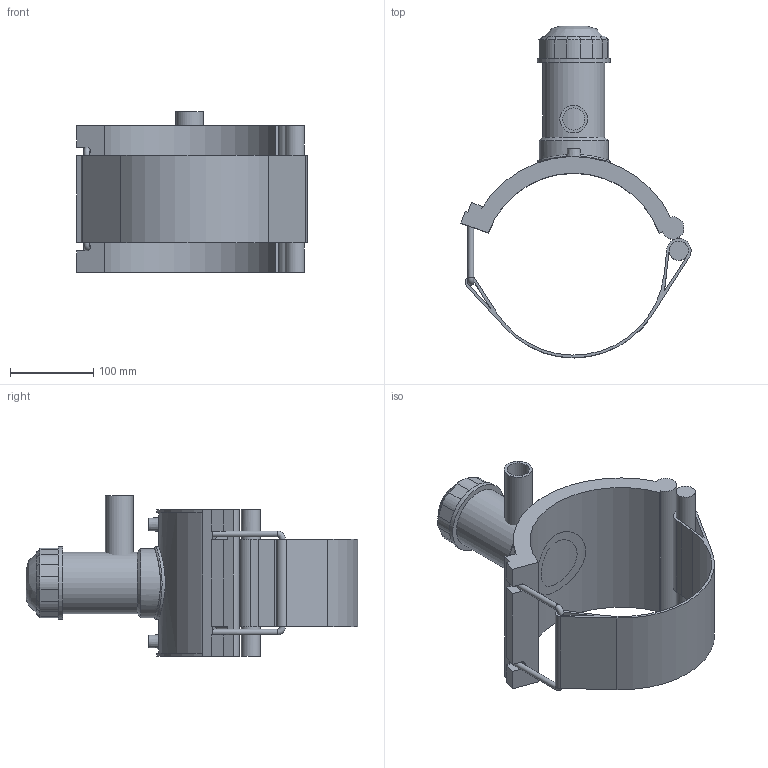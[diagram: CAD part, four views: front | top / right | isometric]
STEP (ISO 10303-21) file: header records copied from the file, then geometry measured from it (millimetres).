
FILE_DESCRIPTION(/* description */ ('PLASSON TAPPING SADDLE 8''''IPS x 1''''IPS'),/* implementation_level */ '2;1');
FILE_NAME(/* name */ 'C:\Dropbox\KIMPROJECTS-Inventor 2019\99-16-3568-Processing Inch\ASTM ElectroFusion 2021\5963BBP_5963BUP\5963BBP3080010.ipt.stp',/* time_stamp */ '2021-08-30T09:57:29+03:00',/* author */ ('KIM'),/* organization */ (''),/* preprocessor_version */ 'ST-DEVELOPER v17.2',/* originating_system */ 'Autodesk Inventor 2019',/* authorisation */ '');
FILE_SCHEMA (('AUTOMOTIVE_DESIGN { 1 0 10303 214 3 1 1 }'));
Length unit declared in the file: inch
Products named in the file (1): 5963BBP3080010
Bounding box: 276.84 x 399.02 x 192.91 mm (x, y, z)
Volume: 1819346.5 mm3; surface area: 364203 mm2
Topology: 3 solids, 3 shells, 124 faces, 315 edges, 205 vertices
Faces by surface type: plane 69, cylinder 40, cone 11, torus 2, bspline 2
Full cylindrical faces by diameter (mm): 4 x2, 6.998 x2, 10 x2, 23.048 x1, 26.64 x1, 33.3 x1, 61.236 x1, 74.358 x1, 83.106 x1, 87.48 x2
Entity records: 4260 total; most frequent: CARTESIAN_POINT 1120, DIRECTION 663, ORIENTED_EDGE 632, EDGE_CURVE 316, AXIS2_PLACEMENT_3D 241, VERTEX_POINT 205, LINE 181, VECTOR 181
